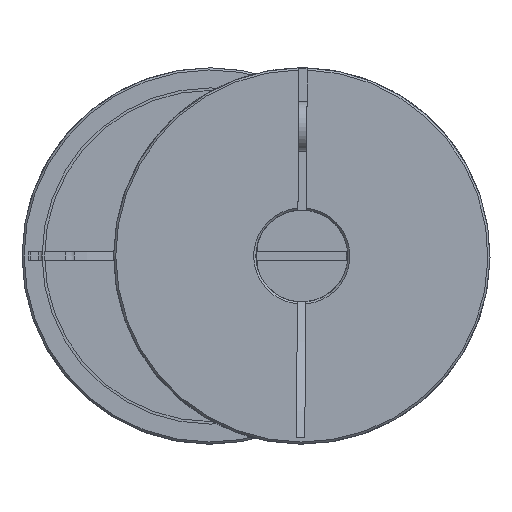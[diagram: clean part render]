
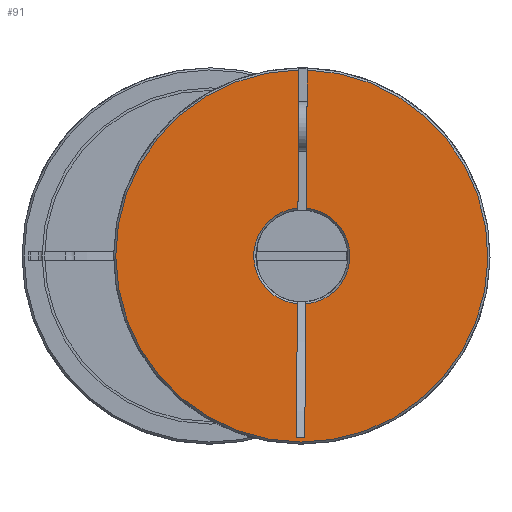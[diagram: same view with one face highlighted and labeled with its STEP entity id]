
A CAD part, left-side view. The second image highlights one B-rep face of the part: STEP entity #91.
In plain terms, the highlighted planar face has unit normal (-1, 0, 0).
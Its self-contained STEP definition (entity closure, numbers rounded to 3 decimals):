
#91 = ADVANCED_FACE( 'NONE', ( #176 ), #177, .F. );
#176 = FACE_OUTER_BOUND( '', #273, .T. );
#177 = PLANE( '', #274 );
#273 = EDGE_LOOP( '', ( #471, #472, #473, #474, #475, #476, #477, #478 ) );
#274 = AXIS2_PLACEMENT_3D( '', #479, #480, #481 );
#471 = ORIENTED_EDGE( '', *, *, #771, .T. );
#472 = ORIENTED_EDGE( '', *, *, #772, .T. );
#473 = ORIENTED_EDGE( '', *, *, #773, .T. );
#474 = ORIENTED_EDGE( '', *, *, #750, .T. );
#475 = ORIENTED_EDGE( '', *, *, #754, .F. );
#476 = ORIENTED_EDGE( '', *, *, #767, .T. );
#477 = ORIENTED_EDGE( '', *, *, #774, .F. );
#478 = ORIENTED_EDGE( '', *, *, #764, .T. );
#479 = CARTESIAN_POINT( '', ( 0., 11., 0. ) );
#480 = DIRECTION( '', ( 1., 0., 0. ) );
#481 = DIRECTION( '', ( 0., 1., 0. ) );
#750 = EDGE_CURVE( 'NONE', #1004, #1002, #1005, .F. );
#754 = EDGE_CURVE( 'NONE', #1008, #1002, #1010, .F. );
#764 = EDGE_CURVE( 'NONE', #1021, #1023, #1025, .T. );
#767 = EDGE_CURVE( 'NONE', #1008, #1027, #1029, .T. );
#771 = EDGE_CURVE( 'NONE', #1023, #1034, #1035, .T. );
#772 = EDGE_CURVE( 'NONE', #1034, #1036, #1037, .T. );
#773 = EDGE_CURVE( 'NONE', #1036, #1004, #1038, .T. );
#774 = EDGE_CURVE( 'NONE', #1021, #1027, #1039, .F. );
#1002 = VERTEX_POINT( 'NONE', #1546 );
#1004 = VERTEX_POINT( 'NONE', #1551 );
#1005 = CIRCLE( '', #1552, 44.5 );
#1008 = VERTEX_POINT( 'NONE', #1558 );
#1010 = LINE( '', #1563, #1564 );
#1021 = VERTEX_POINT( 'NONE', #1578 );
#1023 = VERTEX_POINT( 'NONE', #1580 );
#1025 = LINE( '', #1582, #1583 );
#1027 = VERTEX_POINT( 'NONE', #1585 );
#1029 = CIRCLE( '', #1590, 11.5 );
#1034 = VERTEX_POINT( 'NONE', #1595 );
#1035 = LINE( '', #1596, #1597 );
#1036 = VERTEX_POINT( 'NONE', #1598 );
#1037 = CIRCLE( '', #1599, 11.5 );
#1038 = LINE( '', #1600, #1601 );
#1039 = LINE( '', #1602, #1603 );
#1546 = CARTESIAN_POINT( '', ( 0., -44.489, -1. ) );
#1551 = CARTESIAN_POINT( '', ( 0., -44.489, 1. ) );
#1552 = AXIS2_PLACEMENT_3D( '', #1823, #1824, #1825 );
#1558 = CARTESIAN_POINT( '', ( 0., -11.456, -1. ) );
#1563 = CARTESIAN_POINT( '', ( 0., -9., -1. ) );
#1564 = VECTOR( '', #1826, 1000. );
#1578 = CARTESIAN_POINT( '', ( 0., 43.508, -1. ) );
#1580 = CARTESIAN_POINT( '', ( 0., 43.508, 1. ) );
#1582 = CARTESIAN_POINT( '', ( 0., 43.508, -1. ) );
#1583 = VECTOR( '', #1842, 1000. );
#1585 = CARTESIAN_POINT( '', ( 0., 11.456, -1. ) );
#1590 = AXIS2_PLACEMENT_3D( '', #1843, #1844, #1845 );
#1595 = CARTESIAN_POINT( '', ( 0., 11.456, 1. ) );
#1596 = CARTESIAN_POINT( '', ( 0., 11., 1. ) );
#1597 = VECTOR( '', #1849, 1000. );
#1598 = CARTESIAN_POINT( '', ( 0., -11.456, 1. ) );
#1599 = AXIS2_PLACEMENT_3D( '', #1850, #1851, #1852 );
#1600 = CARTESIAN_POINT( '', ( 0., 11., 1. ) );
#1601 = VECTOR( '', #1853, 1000. );
#1602 = CARTESIAN_POINT( '', ( 0., -9., -1. ) );
#1603 = VECTOR( '', #1854, 1000. );
#1823 = CARTESIAN_POINT( '', ( 0., 0., 0. ) );
#1824 = DIRECTION( '', ( 1., 0., 0. ) );
#1825 = DIRECTION( '', ( 0., 0., -1. ) );
#1826 = DIRECTION( '', ( 0., 1., 0. ) );
#1842 = DIRECTION( '', ( 0., 0., 1. ) );
#1843 = CARTESIAN_POINT( '', ( 0., 0., 0. ) );
#1844 = DIRECTION( '', ( 1., 0., 0. ) );
#1845 = DIRECTION( '', ( 0., 0., -1. ) );
#1849 = DIRECTION( '', ( 0., -1., 0. ) );
#1850 = CARTESIAN_POINT( '', ( 0., 0., 0. ) );
#1851 = DIRECTION( '', ( 1., 0., 0. ) );
#1852 = DIRECTION( '', ( 0., 0., -1. ) );
#1853 = DIRECTION( '', ( 0., -1., 0. ) );
#1854 = DIRECTION( '', ( 0., 1., 0. ) );
